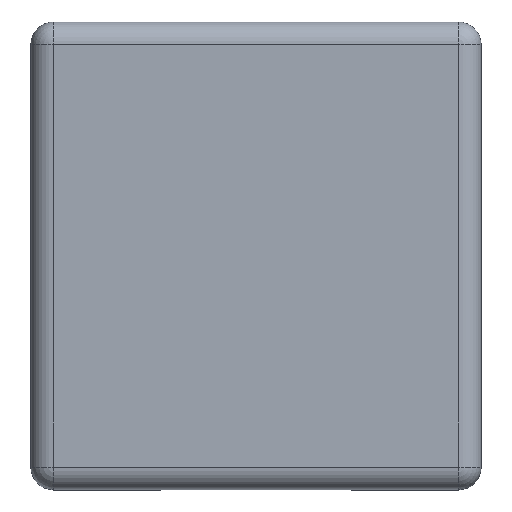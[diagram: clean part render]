
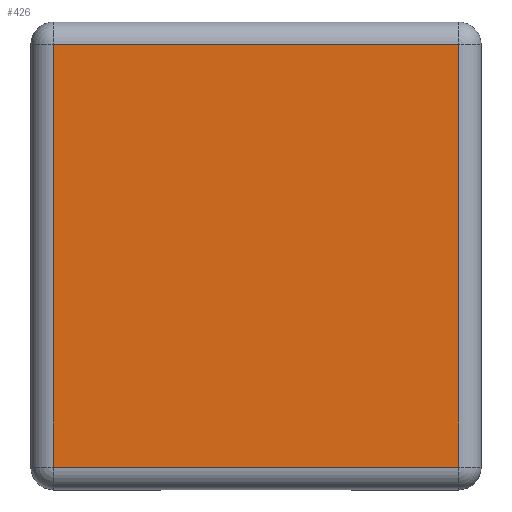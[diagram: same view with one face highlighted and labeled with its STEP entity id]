
A CAD part, top view. The second image highlights one B-rep face of the part: STEP entity #426.
In plain terms, the highlighted planar face has unit normal (0, 0, 1).
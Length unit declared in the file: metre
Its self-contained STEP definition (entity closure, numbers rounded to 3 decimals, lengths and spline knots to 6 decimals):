
#24=LINE('',#646,#68);
#26=LINE('',#652,#70);
#28=LINE('',#655,#72);
#51=LINE('',#711,#95);
#68=VECTOR('',#517,1.);
#70=VECTOR('',#523,1.);
#72=VECTOR('',#527,1.);
#95=VECTOR('',#582,1.);
#116=PLANE('',#477);
#187=ORIENTED_EDGE('',*,*,#285,.F.);
#188=ORIENTED_EDGE('',*,*,#257,.F.);
#189=ORIENTED_EDGE('',*,*,#252,.F.);
#190=ORIENTED_EDGE('',*,*,#255,.F.);
#252=EDGE_CURVE('',#310,#303,#24,.T.);
#255=EDGE_CURVE('',#313,#310,#26,.T.);
#257=EDGE_CURVE('',#303,#314,#28,.T.);
#285=EDGE_CURVE('',#314,#313,#51,.T.);
#303=VERTEX_POINT('',#625);
#310=VERTEX_POINT('',#641);
#313=VERTEX_POINT('',#651);
#314=VERTEX_POINT('',#656);
#370=EDGE_LOOP('',(#187,#188,#189,#190));
#396=FACE_BOUND('',#370,.T.);
#426=ADVANCED_FACE('',(#396),#116,.T.);
#477=AXIS2_PLACEMENT_3D('',#710,#580,#581);
#517=DIRECTION('',(-1.,0.,0.));
#523=DIRECTION('',(0.,-1.,0.));
#527=DIRECTION('',(0.,1.,0.));
#580=DIRECTION('',(0.,0.,1.));
#581=DIRECTION('',(0.,-1.,0.));
#582=DIRECTION('',(1.,0.,0.));
#625=CARTESIAN_POINT('',(0.14666,-0.12534,0.004395));
#641=CARTESIAN_POINT('',(0.15134,-0.12534,0.004395));
#646=CARTESIAN_POINT('',(0.15134,-0.12534,0.004395));
#651=CARTESIAN_POINT('',(0.15134,-0.12046,0.004395));
#652=CARTESIAN_POINT('',(0.15134,-0.12046,0.004395));
#655=CARTESIAN_POINT('',(0.14666,-0.12534,0.004395));
#656=CARTESIAN_POINT('',(0.14666,-0.12046,0.004395));
#710=CARTESIAN_POINT('',(0.1464,-0.1202,0.004395));
#711=CARTESIAN_POINT('',(0.14666,-0.12046,0.004395));
